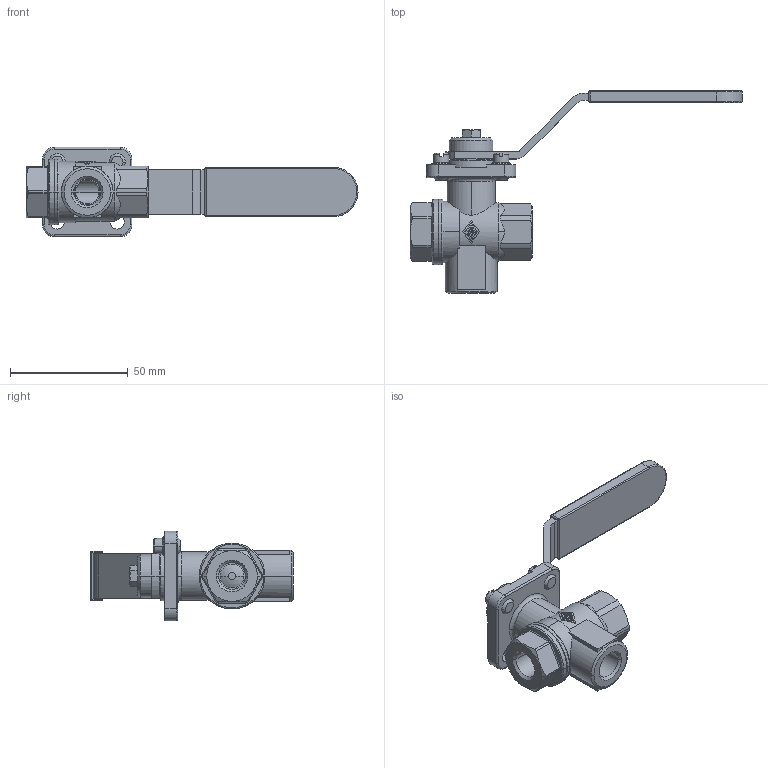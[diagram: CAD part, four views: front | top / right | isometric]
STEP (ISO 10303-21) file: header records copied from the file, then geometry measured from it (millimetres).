
FILE_DESCRIPTION(('CoCreate Modeling STEP Export'),'2;1');
FILE_NAME('3210020000.stp','2010-11-25T11:34:29',(''),(''),'CoCreate Modeling STEP processor for AP214 (Solid Model)','CoCreate Modeling 16.00D 29-May-2009 (C) Parametric Technology GmbH','');
FILE_SCHEMA(('AUTOMOTIVE_DESIGN { 1 0 10303 214 1 1 1 1 }'));
Length unit declared in the file: millimetre
Products named in the file (2): 3210020000
Assembly tree (1 placements, depth 2):
  3210020000
    3210020000
Bounding box: 141 x 86 x 38 mm (x, y, z)
Volume: 48163.7 mm3; surface area: 19341.2 mm2
Topology: 1 solids, 1 shells, 366 faces, 934 edges, 590 vertices
Faces by surface type: plane 161, cylinder 125, cone 48, torus 26, sphere 6
Entity records: 14827 total; most frequent: CARTESIAN_POINT 5865, ORIENTED_EDGE 1856, DIRECTION 1453, EDGE_CURVE 928, VERTEX_POINT 590, AXIS2_PLACEMENT_3D 498, VECTOR 457, LINE 457
